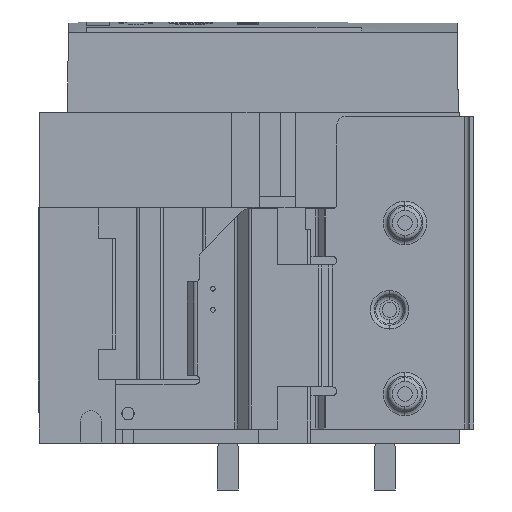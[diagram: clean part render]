
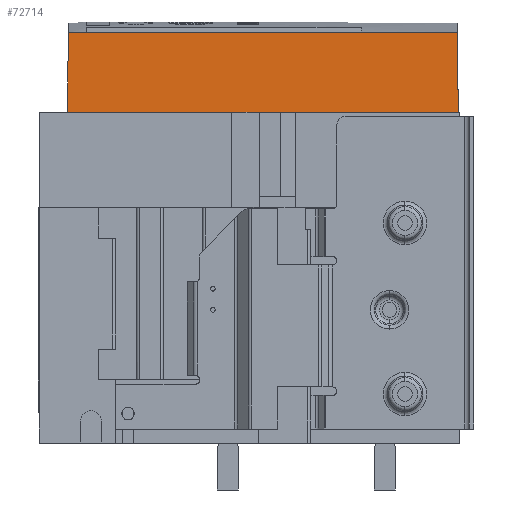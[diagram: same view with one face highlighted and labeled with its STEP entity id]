
A CAD part, left-side view. The second image highlights one B-rep face of the part: STEP entity #72714.
In plain terms, the highlighted planar face has unit normal (-1, 0, 0.014).
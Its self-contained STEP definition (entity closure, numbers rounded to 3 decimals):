
#2261 = DIRECTION ( 'NONE',  ( 0., -1., 0. ) ) ;
#2926 = VECTOR ( 'NONE', #2261, 1000. ) ;
#3242 = PLANE ( 'NONE',  #53794 ) ;
#4288 = EDGE_CURVE ( 'NONE', #26330, #46229, #10035, .T. ) ;
#5692 = ORIENTED_EDGE ( 'NONE', *, *, #54208, .T. ) ;
#5983 = CARTESIAN_POINT ( 'NONE',  ( -28.401, 189.747, 479.563 ) ) ;
#6142 = CARTESIAN_POINT ( 'NONE',  ( -28.345, 214.427, 483.563 ) ) ;
#7266 = CARTESIAN_POINT ( 'NONE',  ( -28.345, 189.77, 483.563 ) ) ;
#8538 = LINE ( 'NONE', #10393, #72139 ) ;
#10035 = LINE ( 'NONE', #17416, #62039 ) ;
#10393 = CARTESIAN_POINT ( 'NONE',  ( -28.345, 72.376, 483.563 ) ) ;
#11417 = CARTESIAN_POINT ( 'NONE',  ( -29.295, 72.376, 415.563 ) ) ;
#12082 = EDGE_CURVE ( 'NONE', #79300, #44202, #8538, .T. ) ;
#17182 = LINE ( 'NONE', #85913, #60373 ) ;
#17416 = CARTESIAN_POINT ( 'NONE',  ( -29.267, 215.349, 417.559 ) ) ;
#18608 = VERTEX_POINT ( 'NONE', #5983 ) ;
#19146 = LINE ( 'NONE', #99742, #71217 ) ;
#20755 = CARTESIAN_POINT ( 'NONE',  ( -29.24, 353.122, 419.482 ) ) ;
#22467 = VECTOR ( 'NONE', #31157, 1000. ) ;
#23712 = CARTESIAN_POINT ( 'NONE',  ( -28.401, 214.483, 479.563 ) ) ;
#26117 = EDGE_LOOP ( 'NONE', ( #5692, #45125, #70226, #67622, #49921, #59314, #50951, #82591, #55383, #86879 ) ) ;
#26330 = VERTEX_POINT ( 'NONE', #6142 ) ;
#29827 = LINE ( 'NONE', #85257, #48740 ) ;
#30945 = VERTEX_POINT ( 'NONE', #90082 ) ;
#31157 = DIRECTION ( 'NONE',  ( -0.014, -0.006, -1. ) ) ;
#34581 = CARTESIAN_POINT ( 'NONE',  ( -28.401, 72.376, 479.563 ) ) ;
#35235 = VECTOR ( 'NONE', #79700, 1000. ) ;
#35238 = DIRECTION ( 'NONE',  ( 0., 1., 0. ) ) ;
#35433 = EDGE_CURVE ( 'NONE', #30945, #44202, #80477, .T. ) ;
#38835 = CARTESIAN_POINT ( 'NONE',  ( -27.554, 74.117, 540.213 ) ) ;
#39338 = DIRECTION ( 'NONE',  ( 0., -1., 0. ) ) ;
#41386 = DIRECTION ( 'NONE',  ( 0., 1., 0. ) ) ;
#42745 = EDGE_CURVE ( 'NONE', #92309, #30945, #17182, .T. ) ;
#44202 = VERTEX_POINT ( 'NONE', #44462 ) ;
#44462 = CARTESIAN_POINT ( 'NONE',  ( -28.345, 352.227, 483.563 ) ) ;
#45125 = ORIENTED_EDGE ( 'NONE', *, *, #55149, .T. ) ;
#45480 = EDGE_CURVE ( 'NONE', #98390, #18608, #73300, .T. ) ;
#46229 = VERTEX_POINT ( 'NONE', #23712 ) ;
#46694 = CARTESIAN_POINT ( 'NONE',  ( -29.289, 189.379, 415.996 ) ) ;
#47221 = CARTESIAN_POINT ( 'NONE',  ( -28.401, 234.27, 479.563 ) ) ;
#47676 = CARTESIAN_POINT ( 'NONE',  ( -29.326, 233.345, 413.316 ) ) ;
#48740 = VECTOR ( 'NONE', #39338, 1000. ) ;
#49921 = ORIENTED_EDGE ( 'NONE', *, *, #45480, .T. ) ;
#50951 = ORIENTED_EDGE ( 'NONE', *, *, #64586, .F. ) ;
#52805 = DIRECTION ( 'NONE',  ( 0., 1., 0. ) ) ;
#53794 = AXIS2_PLACEMENT_3D ( 'NONE', #11417, #93602, #68250 ) ;
#54208 = EDGE_CURVE ( 'NONE', #79300, #74870, #100145, .T. ) ;
#55149 = EDGE_CURVE ( 'NONE', #74870, #46229, #29827, .T. ) ;
#55383 = ORIENTED_EDGE ( 'NONE', *, *, #35433, .T. ) ;
#57233 = CARTESIAN_POINT ( 'NONE',  ( -28.345, 234.326, 483.563 ) ) ;
#59041 = CARTESIAN_POINT ( 'NONE',  ( -28.401, 73.27, 479.563 ) ) ;
#59314 = ORIENTED_EDGE ( 'NONE', *, *, #100109, .T. ) ;
#60373 = VECTOR ( 'NONE', #52805, 1000. ) ;
#62039 = VECTOR ( 'NONE', #82413, 1000. ) ;
#64586 = EDGE_CURVE ( 'NONE', #92309, #96330, #90170, .T. ) ;
#67622 = ORIENTED_EDGE ( 'NONE', *, *, #91045, .F. ) ;
#68250 = DIRECTION ( 'NONE',  ( 0., 1., 0. ) ) ;
#68669 = CARTESIAN_POINT ( 'NONE',  ( -29.295, 72.376, 415.563 ) ) ;
#70226 = ORIENTED_EDGE ( 'NONE', *, *, #4288, .F. ) ;
#71217 = VECTOR ( 'NONE', #41386, 1000. ) ;
#72139 = VECTOR ( 'NONE', #35238, 1000. ) ;
#72714 = ADVANCED_FACE ( 'NONE', ( #78991 ), #3242, .T. ) ;
#73300 = LINE ( 'NONE', #46694, #22467 ) ;
#74870 = VERTEX_POINT ( 'NONE', #47221 ) ;
#78991 = FACE_OUTER_BOUND ( 'NONE', #26117, .T. ) ;
#79300 = VERTEX_POINT ( 'NONE', #57233 ) ;
#79700 = DIRECTION ( 'NONE',  ( -0.014, -0.014, -1. ) ) ;
#80477 = LINE ( 'NONE', #20755, #94561 ) ;
#80497 = LINE ( 'NONE', #34581, #2926 ) ;
#81259 = VECTOR ( 'NONE', #85419, 1000. ) ;
#82413 = DIRECTION ( 'NONE',  ( -0.014, 0.014, -1. ) ) ;
#82591 = ORIENTED_EDGE ( 'NONE', *, *, #42745, .T. ) ;
#85257 = CARTESIAN_POINT ( 'NONE',  ( -28.401, 72.376, 479.563 ) ) ;
#85419 = DIRECTION ( 'NONE',  ( -0.014, -0.014, -1. ) ) ;
#85913 = CARTESIAN_POINT ( 'NONE',  ( -27.554, 72.376, 540.213 ) ) ;
#86879 = ORIENTED_EDGE ( 'NONE', *, *, #12082, .F. ) ;
#90082 = CARTESIAN_POINT ( 'NONE',  ( -27.554, 351.436, 540.213 ) ) ;
#90170 = LINE ( 'NONE', #68669, #81259 ) ;
#91045 = EDGE_CURVE ( 'NONE', #98390, #26330, #19146, .T. ) ;
#92309 = VERTEX_POINT ( 'NONE', #38835 ) ;
#93602 = DIRECTION ( 'NONE',  ( -1., 0., 0.014 ) ) ;
#94561 = VECTOR ( 'NONE', #102557, 1000. ) ;
#96330 = VERTEX_POINT ( 'NONE', #59041 ) ;
#98390 = VERTEX_POINT ( 'NONE', #7266 ) ;
#99742 = CARTESIAN_POINT ( 'NONE',  ( -28.345, 72.376, 483.563 ) ) ;
#100109 = EDGE_CURVE ( 'NONE', #18608, #96330, #80497, .T. ) ;
#100145 = LINE ( 'NONE', #47676, #35235 ) ;
#102557 = DIRECTION ( 'NONE',  ( -0.014, 0.014, -1. ) ) ;
